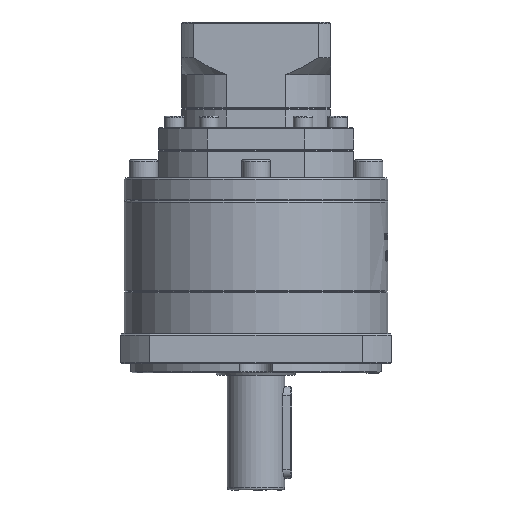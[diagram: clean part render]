
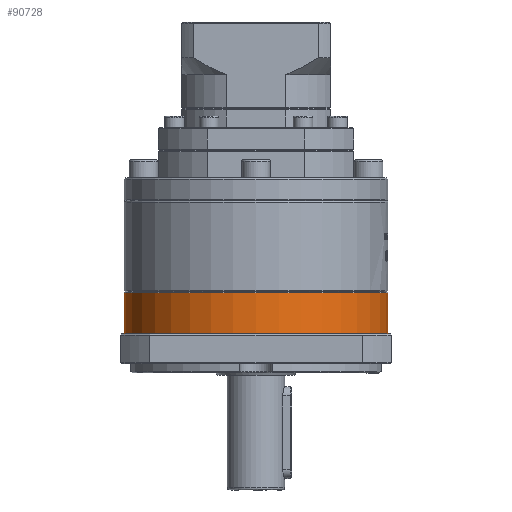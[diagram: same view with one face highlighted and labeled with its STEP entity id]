
A CAD part, front view. The second image highlights one B-rep face of the part: STEP entity #90728.
In plain terms, the highlighted cylindrical face has radius 57.5 mm (diameter 115 mm), a partial arc.
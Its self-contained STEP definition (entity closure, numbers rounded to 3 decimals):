
#5682 = ORIENTED_EDGE ( 'NONE', *, *, #91680, .F. ) ;
#7682 = CARTESIAN_POINT ( 'NONE',  ( -60.328, 40.805, -92.8 ) ) ;
#8019 = DIRECTION ( 'NONE',  ( 1., 0., 0. ) ) ;
#8514 = VERTEX_POINT ( 'NONE', #28201 ) ;
#8748 = EDGE_CURVE ( 'NONE', #37944, #8514, #100485, .T. ) ;
#9596 = EDGE_CURVE ( 'NONE', #37944, #85504, #56680, .T. ) ;
#12574 = CARTESIAN_POINT ( 'NONE',  ( -117.828, 40.805, -110.8 ) ) ;
#14589 = ORIENTED_EDGE ( 'NONE', *, *, #9596, .T. ) ;
#16660 = DIRECTION ( 'NONE',  ( -1., 0., 0. ) ) ;
#16665 = VERTEX_POINT ( 'NONE', #74294 ) ;
#22274 = DIRECTION ( 'NONE',  ( 0., 0., 1. ) ) ;
#23635 = AXIS2_PLACEMENT_3D ( 'NONE', #82929, #109573, #29144 ) ;
#25503 = EDGE_CURVE ( 'NONE', #85504, #16665, #31637, .T. ) ;
#28201 = CARTESIAN_POINT ( 'NONE',  ( -117.828, 40.805, -92.8 ) ) ;
#29144 = DIRECTION ( 'NONE',  ( 1., 0., 0. ) ) ;
#31637 = LINE ( 'NONE', #76001, #52731 ) ;
#32798 = CARTESIAN_POINT ( 'NONE',  ( -2.828, 40.805, -110.8 ) ) ;
#37944 = VERTEX_POINT ( 'NONE', #58812 ) ;
#44234 = EDGE_LOOP ( 'NONE', ( #49195, #14589, #115586, #5682 ) ) ;
#49195 = ORIENTED_EDGE ( 'NONE', *, *, #8748, .F. ) ;
#52731 = VECTOR ( 'NONE', #22274, 1000. ) ;
#53711 = FACE_OUTER_BOUND ( 'NONE', #44234, .T. ) ;
#55643 = VECTOR ( 'NONE', #102316, 1000. ) ;
#56680 = CIRCLE ( 'NONE', #60557, 57.5 ) ;
#58812 = CARTESIAN_POINT ( 'NONE',  ( -117.828, 40.805, -110.8 ) ) ;
#60557 = AXIS2_PLACEMENT_3D ( 'NONE', #115394, #61739, #8019 ) ;
#61739 = DIRECTION ( 'NONE',  ( 0., 0., 1. ) ) ;
#70404 = DIRECTION ( 'NONE',  ( 0., 0., 1. ) ) ;
#74294 = CARTESIAN_POINT ( 'NONE',  ( -2.828, 40.805, -92.8 ) ) ;
#76001 = CARTESIAN_POINT ( 'NONE',  ( -2.828, 40.805, -110.8 ) ) ;
#80201 = AXIS2_PLACEMENT_3D ( 'NONE', #7682, #70404, #16660 ) ;
#82929 = CARTESIAN_POINT ( 'NONE',  ( -60.328, 40.805, -110.8 ) ) ;
#85504 = VERTEX_POINT ( 'NONE', #32798 ) ;
#90728 = ADVANCED_FACE ( 'NONE', ( #53711 ), #113948, .T. ) ;
#91680 = EDGE_CURVE ( 'NONE', #8514, #16665, #112799, .T. ) ;
#100485 = LINE ( 'NONE', #12574, #55643 ) ;
#102316 = DIRECTION ( 'NONE',  ( 0., 0., 1. ) ) ;
#109573 = DIRECTION ( 'NONE',  ( 0., 0., 1. ) ) ;
#112799 = CIRCLE ( 'NONE', #80201, 57.5 ) ;
#113948 = CYLINDRICAL_SURFACE ( 'NONE', #23635, 57.5 ) ;
#115394 = CARTESIAN_POINT ( 'NONE',  ( -60.328, 40.805, -110.8 ) ) ;
#115586 = ORIENTED_EDGE ( 'NONE', *, *, #25503, .T. ) ;
